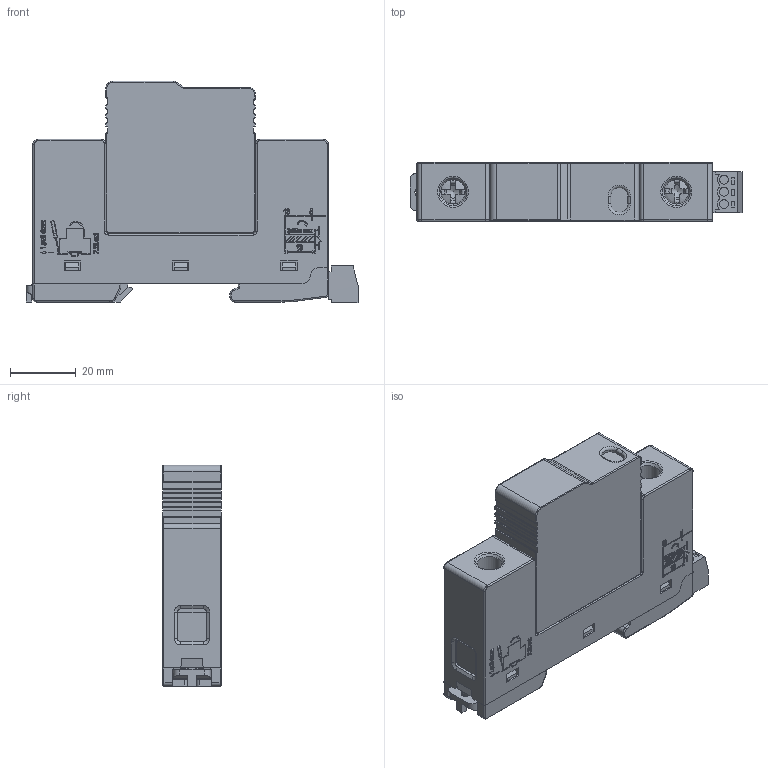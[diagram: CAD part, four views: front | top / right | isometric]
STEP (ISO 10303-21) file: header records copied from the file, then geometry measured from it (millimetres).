
FILE_DESCRIPTION(/* description */ (''),/* implementation_level */ '2;1');
FILE_NAME(/* name */ '3D2025-1',/* time_stamp */ '2025-05-19T14:26:48+08:00',/* author */ (''),/* organization */ (''),/* preprocessor_version */ 'ST-DEVELOPER v9',/* originating_system */ 'EDS PLM SOLUTIONS - UNIGRAPHICS NX 2.0',/* authorisation */ '');
FILE_SCHEMA (('AUTOMOTIVE_DESIGN { 1 0 10303 214 0 1 1 1 }'));
Length unit declared in the file: millimetre
Products named in the file (1): AdmiDDD2hvm5
Bounding box: 101.1 x 17.9 x 67.4 mm (x, y, z)
Volume: 105202.8 mm3; surface area: 34851.5 mm2
Topology: 7 solids, 14 shells, 1533 faces, 4095 edges, 2670 vertices
Faces by surface type: plane 1084, cylinder 262, extrusion 100, torus 50, cone 26, bspline 6, sphere 5
Full cylindrical faces by diameter (mm): 2.7 x3, 4.916 x2, 4.917 x2, 5.35 x2, 6 x2, 7.4 x2, 10.8 x2
Entity records: 49688 total; most frequent: CARTESIAN_POINT 11814, ORIENTED_EDGE 8082, DIRECTION 7266, EDGE_CURVE 4041, VECTOR 3158, LINE 3058, VERTEX_POINT 2658, AXIS2_PLACEMENT_3D 2054
